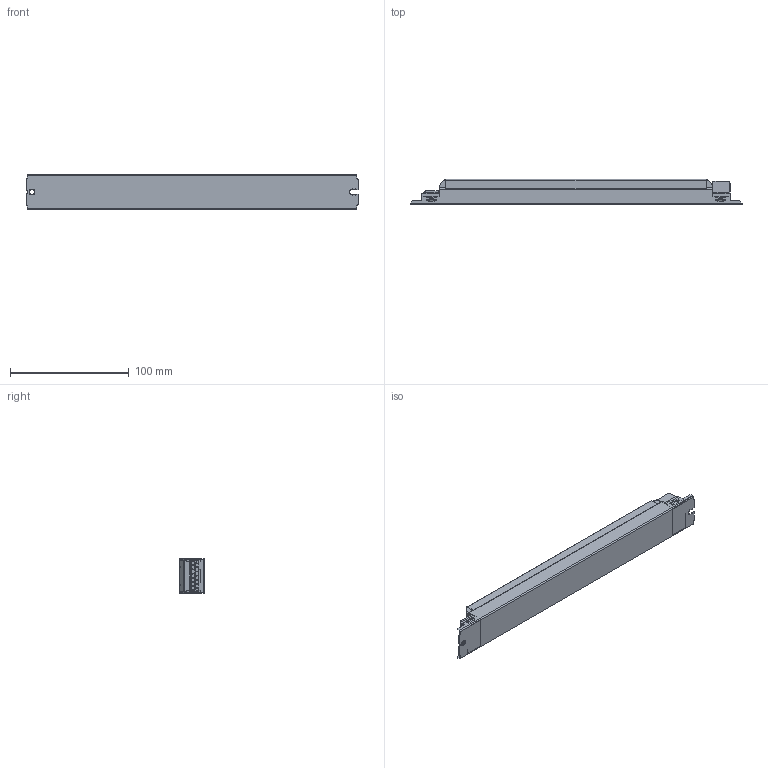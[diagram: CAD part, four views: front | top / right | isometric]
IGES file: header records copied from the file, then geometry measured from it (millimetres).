
Start section: SolidWorks IGES file using analytic representation for surfaces
Global section: file name: D:\ECTR_TEMP\OLQ-batchEngine\queue\temp\4187805swm000.igs; native system: SolidWorks 2017; preprocessor: SolidWorks 2017; author: SYSTEM; date: 200131.063518; units: millimetre
Bounding box: 279 x 21 x 30 mm (x, y, z)
Surface area: 33054.7 mm2 (no closed solid volume)
Topology: 0 solids, 0 shells, 689 faces, 6133 edges, 6130 vertices
Faces by surface type: bspline 446, revolution 243
